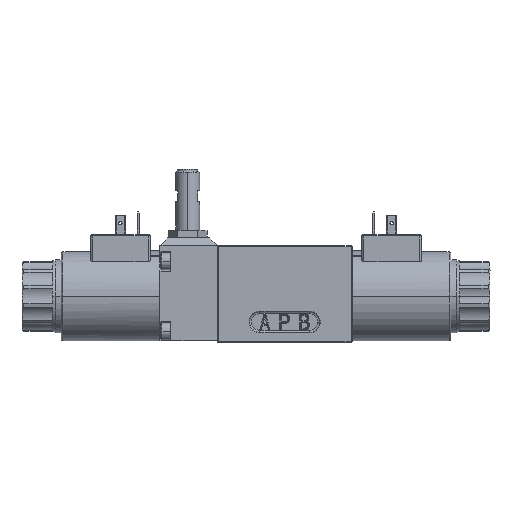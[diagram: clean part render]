
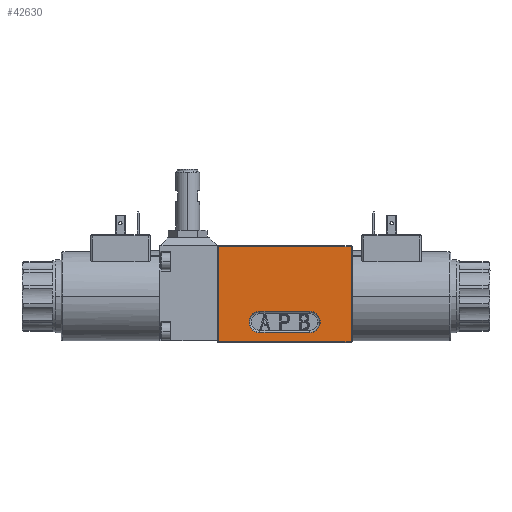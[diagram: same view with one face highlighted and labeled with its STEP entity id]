
A CAD part, top view. The second image highlights one B-rep face of the part: STEP entity #42630.
In plain terms, the highlighted planar face has unit normal (0, 0, 1).
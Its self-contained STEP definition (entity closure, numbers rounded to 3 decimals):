
#1085 = ORIENTED_EDGE ( 'NONE', *, *, #88300, .T. ) ;
#1470 = CARTESIAN_POINT ( 'NONE',  ( 12.5, -13.5, 23. ) ) ;
#5088 = ORIENTED_EDGE ( 'NONE', *, *, #63178, .T. ) ;
#5253 = CARTESIAN_POINT ( 'NONE',  ( -35., -24., 23. ) ) ;
#6202 = CARTESIAN_POINT ( 'NONE',  ( 12.5, -18.971, 23. ) ) ;
#9815 = CARTESIAN_POINT ( 'NONE',  ( -12.5, -18.971, 23. ) ) ;
#10108 = FACE_BOUND ( 'NONE', #26890, .T. ) ;
#10902 = EDGE_LOOP ( 'NONE', ( #24845, #40387, #92265, #5088 ) ) ;
#13563 = DIRECTION ( 'NONE',  ( 1., 0., 0. ) ) ;
#14455 = CARTESIAN_POINT ( 'NONE',  ( 33.5, -24., 23. ) ) ;
#14593 = DIRECTION ( 'NONE',  ( 0., 0., -1. ) ) ;
#15218 = CIRCLE ( 'NONE', #26620, 5.471 ) ;
#15544 = DIRECTION ( 'NONE',  ( 1., 0., 0. ) ) ;
#17869 = VECTOR ( 'NONE', #59214, 1000. ) ;
#19290 = LINE ( 'NONE', #14455, #86095 ) ;
#19577 = CARTESIAN_POINT ( 'NONE',  ( 12.5, -8.029, 23. ) ) ;
#21874 = DIRECTION ( 'NONE',  ( 0., 1., 0. ) ) ;
#22871 = DIRECTION ( 'NONE',  ( -1., 0., 0. ) ) ;
#24845 = ORIENTED_EDGE ( 'NONE', *, *, #91277, .T. ) ;
#24926 = LINE ( 'NONE', #52453, #77796 ) ;
#25264 = VECTOR ( 'NONE', #76660, 1000. ) ;
#26620 = AXIS2_PLACEMENT_3D ( 'NONE', #86463, #71876, #42228 ) ;
#26890 = EDGE_LOOP ( 'NONE', ( #1085, #75834, #91498, #42234, #43380 ) ) ;
#29199 = VERTEX_POINT ( 'NONE', #64411 ) ;
#30091 = DIRECTION ( 'NONE',  ( 0., 0., -1. ) ) ;
#31337 = CARTESIAN_POINT ( 'NONE',  ( 12.5, -8.029, 23. ) ) ;
#34801 = PLANE ( 'NONE',  #66429 ) ;
#35719 = CIRCLE ( 'NONE', #52319, 5.471 ) ;
#40387 = ORIENTED_EDGE ( 'NONE', *, *, #78339, .T. ) ;
#41139 = EDGE_CURVE ( 'NONE', #51485, #69630, #60098, .T. ) ;
#42147 = AXIS2_PLACEMENT_3D ( 'NONE', #44395, #14593, #15544 ) ;
#42228 = DIRECTION ( 'NONE',  ( 1., 0., 0. ) ) ;
#42234 = ORIENTED_EDGE ( 'NONE', *, *, #41139, .T. ) ;
#42630 = ADVANCED_FACE ( 'NONE', ( #10108, #90826 ), #34801, .T. ) ;
#43380 = ORIENTED_EDGE ( 'NONE', *, *, #91965, .T. ) ;
#43905 = EDGE_CURVE ( 'NONE', #55227, #76969, #15218, .T. ) ;
#44395 = CARTESIAN_POINT ( 'NONE',  ( -12.5, -13.5, 23. ) ) ;
#45870 = EDGE_CURVE ( 'NONE', #29199, #70718, #24926, .T. ) ;
#47391 = VERTEX_POINT ( 'NONE', #92443 ) ;
#49556 = VECTOR ( 'NONE', #22871, 1000. ) ;
#49669 = CARTESIAN_POINT ( 'NONE',  ( -33.5, 24.5, 23. ) ) ;
#51485 = VERTEX_POINT ( 'NONE', #9815 ) ;
#51534 = CARTESIAN_POINT ( 'NONE',  ( 33.5, -23.5, 23. ) ) ;
#52319 = AXIS2_PLACEMENT_3D ( 'NONE', #1470, #30091, #81539 ) ;
#52453 = CARTESIAN_POINT ( 'NONE',  ( -35., 24.5, 23. ) ) ;
#52724 = CARTESIAN_POINT ( 'NONE',  ( -33.5, -24., 23. ) ) ;
#53174 = CARTESIAN_POINT ( 'NONE',  ( 17.971, -13.5, 23. ) ) ;
#55227 = VERTEX_POINT ( 'NONE', #53174 ) ;
#56923 = LINE ( 'NONE', #19577, #85845 ) ;
#59214 = DIRECTION ( 'NONE',  ( 0., -1., 0. ) ) ;
#60098 = CIRCLE ( 'NONE', #42147, 5.471 ) ;
#60517 = LINE ( 'NONE', #52724, #17869 ) ;
#63178 = EDGE_CURVE ( 'NONE', #70718, #47391, #60517, .T. ) ;
#64287 = DIRECTION ( 'NONE',  ( 1., 0., 0. ) ) ;
#64411 = CARTESIAN_POINT ( 'NONE',  ( 33.5, 24.5, 23. ) ) ;
#66429 = AXIS2_PLACEMENT_3D ( 'NONE', #5253, #93497, #13563 ) ;
#67336 = DIRECTION ( 'NONE',  ( -1., 0., 0. ) ) ;
#67833 = VERTEX_POINT ( 'NONE', #51534 ) ;
#69229 = CARTESIAN_POINT ( 'NONE',  ( -12.5, -8.029, 23. ) ) ;
#69265 = CARTESIAN_POINT ( 'NONE',  ( -35., -23.5, 23. ) ) ;
#69630 = VERTEX_POINT ( 'NONE', #69229 ) ;
#70718 = VERTEX_POINT ( 'NONE', #49669 ) ;
#71876 = DIRECTION ( 'NONE',  ( 0., 0., -1. ) ) ;
#75658 = EDGE_CURVE ( 'NONE', #76969, #51485, #88919, .T. ) ;
#75834 = ORIENTED_EDGE ( 'NONE', *, *, #43905, .T. ) ;
#76660 = DIRECTION ( 'NONE',  ( 1., 0., 0. ) ) ;
#76969 = VERTEX_POINT ( 'NONE', #81250 ) ;
#77796 = VECTOR ( 'NONE', #67336, 1000. ) ;
#78339 = EDGE_CURVE ( 'NONE', #67833, #29199, #19290, .T. ) ;
#81250 = CARTESIAN_POINT ( 'NONE',  ( 12.5, -18.971, 23. ) ) ;
#81539 = DIRECTION ( 'NONE',  ( 1., 0., 0. ) ) ;
#85845 = VECTOR ( 'NONE', #64287, 1000. ) ;
#86095 = VECTOR ( 'NONE', #21874, 1000. ) ;
#86463 = CARTESIAN_POINT ( 'NONE',  ( 12.5, -13.5, 23. ) ) ;
#87550 = LINE ( 'NONE', #69265, #25264 ) ;
#88300 = EDGE_CURVE ( 'NONE', #93683, #55227, #35719, .T. ) ;
#88919 = LINE ( 'NONE', #6202, #49556 ) ;
#90826 = FACE_OUTER_BOUND ( 'NONE', #10902, .T. ) ;
#91277 = EDGE_CURVE ( 'NONE', #47391, #67833, #87550, .T. ) ;
#91498 = ORIENTED_EDGE ( 'NONE', *, *, #75658, .T. ) ;
#91965 = EDGE_CURVE ( 'NONE', #69630, #93683, #56923, .T. ) ;
#92265 = ORIENTED_EDGE ( 'NONE', *, *, #45870, .T. ) ;
#92443 = CARTESIAN_POINT ( 'NONE',  ( -33.5, -23.5, 23. ) ) ;
#93497 = DIRECTION ( 'NONE',  ( 0., 0., 1. ) ) ;
#93683 = VERTEX_POINT ( 'NONE', #31337 ) ;
